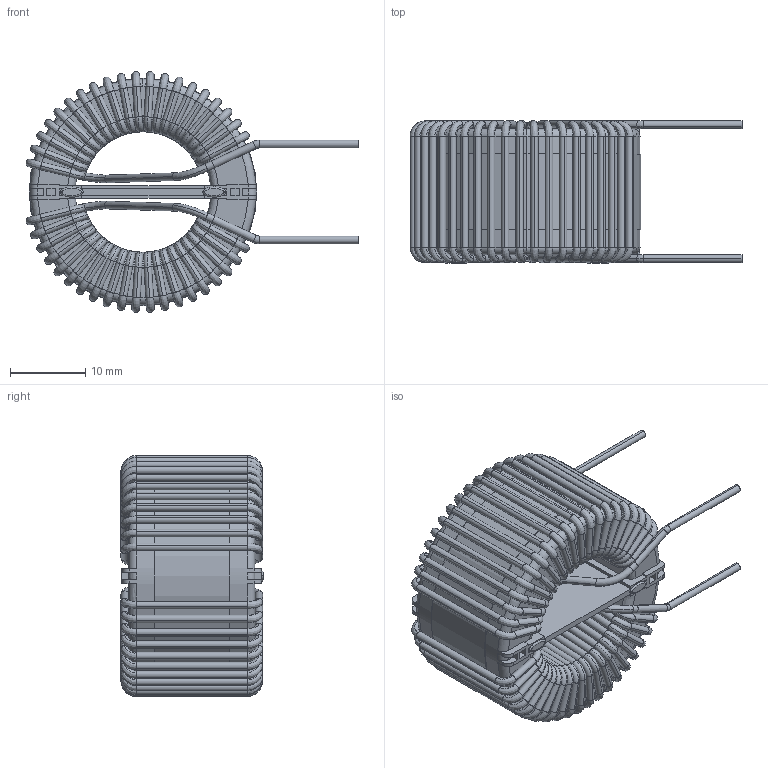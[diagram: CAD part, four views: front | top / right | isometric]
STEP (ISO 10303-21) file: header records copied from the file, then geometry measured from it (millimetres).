
FILE_DESCRIPTION (( 'STEP AP203' ), '1' );
FILE_NAME ('HN-V-273U-7A.STEP', '2020-06-23T13:54:39', ( 'Windows User' ), ( '' ), 'SwSTEP 2.0', 'SolidWorks 2015', '' );
FILE_SCHEMA (( 'CONFIG_CONTROL_DESIGN' ));
Length unit declared in the file: inch
Products named in the file (4): HN-V-273U-7A - CORE; HN-V-273U-7A; HN-V-273U-7A - FRAME; HN-V-273U-7A - COIL
Assembly tree (3 placements, depth 2):
  HN-V-273U-7A
    HN-V-273U-7A - CORE
    HN-V-273U-7A - COIL
    HN-V-273U-7A - FRAME
Bounding box: 44 x 18.84 x 31.92 mm (x, y, z)
Volume: 9604 mm3; surface area: 12843.2 mm2
Topology: 13 solids, 13 shells, 967 faces, 2803 edges, 1864 vertices
Faces by surface type: cylinder 427, bspline 212, torus 196, plane 132
Entity records: 50247 total; most frequent: CARTESIAN_POINT 24568, ORIENTED_EDGE 5606, DIRECTION 5441, EDGE_CURVE 2803, AXIS2_PLACEMENT_3D 2341, VERTEX_POINT 1864, CIRCLE 1580, EDGE_LOOP 973
